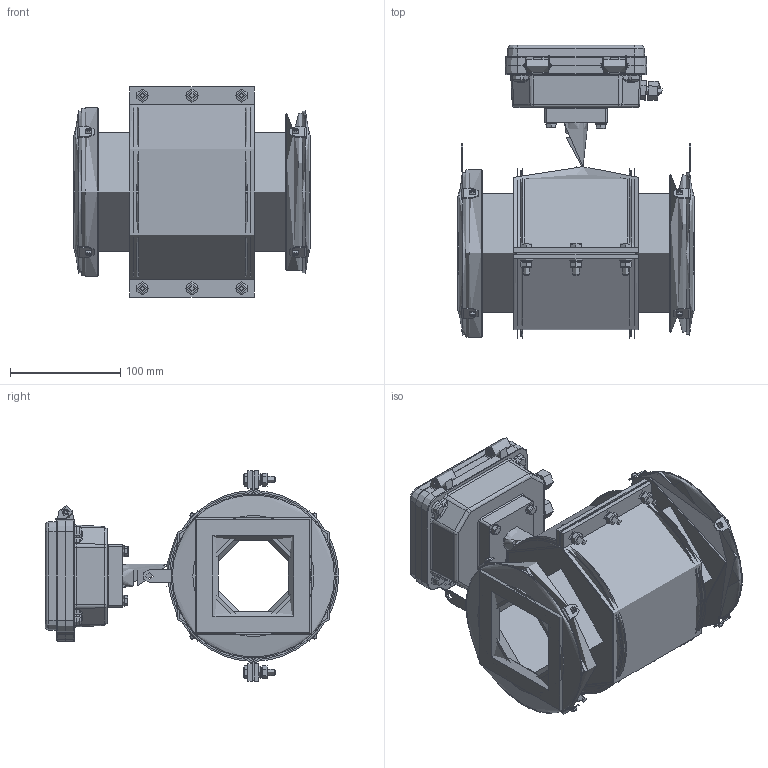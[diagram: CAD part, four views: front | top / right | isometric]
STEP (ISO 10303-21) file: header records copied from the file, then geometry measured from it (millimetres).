
FILE_DESCRIPTION(('STEP AP214'), '1');
FILE_NAME('Âçëåò ÝÌ ÏÐÎÔÈ DN100 Ñýíäâè÷', '', ('UNSPECIFIED'), ('UNSPECIFIED'), 'ASCON STEP Converter 1.6', 'ASCON Math Kernel', '');
FILE_SCHEMA(('AUTOMOTIVE_DESIGN { 1 0 10303 214 3 1 1}'));
Length unit declared in the file: millimetre
Products named in the file (1): 婽挭.407212.031-001.11
Bounding box: 216 x 266.51 x 191 mm (x, y, z)
Topology: 6 solids, 11 shells, 1711 faces, 4147 edges, 2545 vertices
Faces by surface type: plane 879, cylinder 462, cone 175, torus 147, bspline 38, sphere 10
Full cylindrical faces by diameter (mm): 0.8 x2, 2 x2, 3 x4, 3.242 x14, 3.3 x2, 4 x20, 5 x9, 5.5 x1, 6 x16, 6.4 x6, 7 x27, 7.5 x2, 8 x2, 10 x4, 11 x6, 12 x8, 12.5 x2, 16.5 x2, 18 x1, 19 x1, 20 x1, 21 x2, 25 x1, 30 x1, 90 x1, 98 x2, 100 x2, 108 x3, 110 x2, 147 x2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
Entity records: 84282 total; most frequent: CARTESIAN_POINT 26435, DIRECTION 8371, ORIENTED_EDGE 7572, EDGE_CURVE 3786, AXIS2_PLACEMENT_3D 3238, VERTEX_POINT 2519, EDGE_LOOP 2231, LINE 1895
